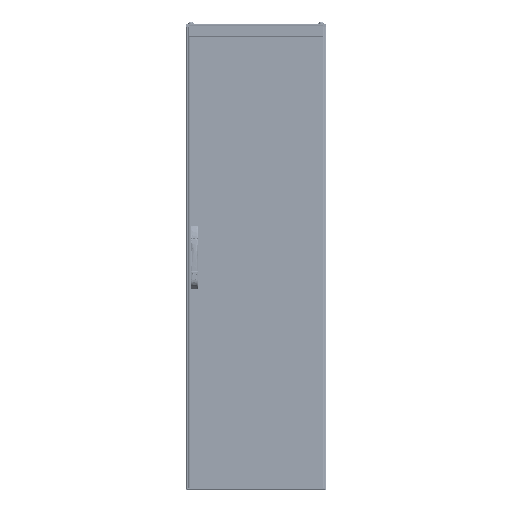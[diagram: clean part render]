
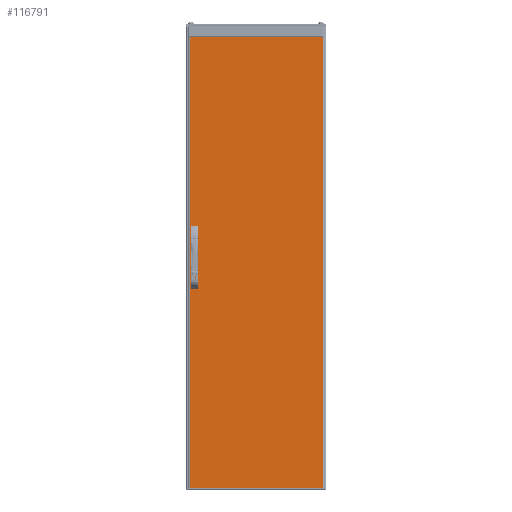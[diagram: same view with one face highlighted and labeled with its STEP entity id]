
A CAD part, top view. The second image highlights one B-rep face of the part: STEP entity #116791.
In plain terms, the highlighted planar face has unit normal (0, 0, 1) as drawn and (0, -1, 0) by its records, which use the part's own axes.
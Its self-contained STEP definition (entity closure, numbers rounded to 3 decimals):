
#176 = DIRECTION ( 'NONE',  ( 0., -1., 0. ) ) ;
#2111 = CARTESIAN_POINT ( 'NONE',  ( 876.498, 0., -16.045 ) ) ;
#7709 = EDGE_CURVE ( 'NONE', #314899, #80821, #69271, .T. ) ;
#9072 = LINE ( 'NONE', #193370, #301735 ) ;
#19962 = DIRECTION ( 'NONE',  ( 0., 1., 0. ) ) ;
#22725 = ORIENTED_EDGE ( 'NONE', *, *, #29682, .T. ) ;
#24233 = ORIENTED_EDGE ( 'NONE', *, *, #187317, .F. ) ;
#26085 = ORIENTED_EDGE ( 'NONE', *, *, #326736, .F. ) ;
#27164 = VERTEX_POINT ( 'NONE', #230411 ) ;
#27208 = FACE_BOUND ( 'NONE', #187637, .T. ) ;
#29682 = EDGE_CURVE ( 'NONE', #260026, #83284, #306616, .T. ) ;
#30206 = DIRECTION ( 'NONE',  ( 0., 0., 1. ) ) ;
#32160 = DIRECTION ( 'NONE',  ( -1., 0., 0. ) ) ;
#36968 = ORIENTED_EDGE ( 'NONE', *, *, #109586, .F. ) ;
#52150 = LINE ( 'NONE', #331497, #170695 ) ;
#54330 = ORIENTED_EDGE ( 'NONE', *, *, #332370, .T. ) ;
#55620 = ORIENTED_EDGE ( 'NONE', *, *, #75041, .T. ) ;
#57652 = DIRECTION ( 'NONE',  ( 0., 1., 0. ) ) ;
#59205 = LINE ( 'NONE', #213204, #266593 ) ;
#65062 = CARTESIAN_POINT ( 'NONE',  ( 876.498, 0., -21.745 ) ) ;
#66842 = EDGE_CURVE ( 'NONE', #83284, #196909, #9072, .T. ) ;
#69271 = CIRCLE ( 'NONE', #279984, 2.85 ) ;
#70539 = VECTOR ( 'NONE', #283867, 1000. ) ;
#71337 = CARTESIAN_POINT ( 'NONE',  ( 958.75, 0., -14.645 ) ) ;
#74515 = EDGE_CURVE ( 'NONE', #196909, #329781, #121294, .T. ) ;
#74584 = VERTEX_POINT ( 'NONE', #209993 ) ;
#74708 = CIRCLE ( 'NONE', #117986, 2.85 ) ;
#74817 = DIRECTION ( 'NONE',  ( 0., 1., 0. ) ) ;
#75041 = EDGE_CURVE ( 'NONE', #127137, #269888, #131647, .T. ) ;
#77344 = EDGE_CURVE ( 'NONE', #269888, #127137, #74708, .T. ) ;
#77941 = FACE_BOUND ( 'NONE', #117811, .T. ) ;
#79615 = CARTESIAN_POINT ( 'NONE',  ( 0., 0., -572. ) ) ;
#80370 = VECTOR ( 'NONE', #301605, 1000. ) ;
#80821 = VERTEX_POINT ( 'NONE', #2111 ) ;
#82655 = CARTESIAN_POINT ( 'NONE',  ( 1106.5, 0., -18.895 ) ) ;
#83284 = VERTEX_POINT ( 'NONE', #330237 ) ;
#83376 = VECTOR ( 'NONE', #167335, 1000. ) ;
#84670 = DIRECTION ( 'NONE',  ( 0., 0., 1. ) ) ;
#89744 = CARTESIAN_POINT ( 'NONE',  ( 0., 0., -572. ) ) ;
#96921 = DIRECTION ( 'NONE',  ( 0., 1., 0. ) ) ;
#103314 = FACE_BOUND ( 'NONE', #201569, .T. ) ;
#104495 = VERTEX_POINT ( 'NONE', #334427 ) ;
#105088 = CARTESIAN_POINT ( 'NONE',  ( 958.75, 0., -14.645 ) ) ;
#106760 = EDGE_CURVE ( 'NONE', #74584, #324449, #224079, .T. ) ;
#109436 = ORIENTED_EDGE ( 'NONE', *, *, #77344, .T. ) ;
#109586 = EDGE_CURVE ( 'NONE', #213952, #235732, #276688, .T. ) ;
#110028 = LINE ( 'NONE', #213265, #267280 ) ;
#113444 = CARTESIAN_POINT ( 'NONE',  ( 958.75, 0., -18.895 ) ) ;
#114523 = EDGE_CURVE ( 'NONE', #27164, #213952, #162338, .T. ) ;
#116791 = ADVANCED_FACE ( 'NONE', ( #103314, #77941, #27208, #159124 ), #157449, .T. ) ;
#117811 = EDGE_LOOP ( 'NONE', ( #55620, #109436 ) ) ;
#117986 = AXIS2_PLACEMENT_3D ( 'NONE', #120648, #74817, #228821 ) ;
#120504 = LINE ( 'NONE', #71337, #80370 ) ;
#120648 = CARTESIAN_POINT ( 'NONE',  ( 1106.5, 0., -18.895 ) ) ;
#121294 = CIRCLE ( 'NONE', #316077, 4.25 ) ;
#121607 = EDGE_CURVE ( 'NONE', #74584, #27164, #131517, .T. ) ;
#124000 = CARTESIAN_POINT ( 'NONE',  ( 1024.25, 0., -18.895 ) ) ;
#127137 = VERTEX_POINT ( 'NONE', #284979 ) ;
#131025 = VECTOR ( 'NONE', #324622, 1000. ) ;
#131517 = LINE ( 'NONE', #290545, #70539 ) ;
#131647 = CIRCLE ( 'NONE', #196353, 2.85 ) ;
#140956 = DIRECTION ( 'NONE',  ( -1., 0., 0. ) ) ;
#141061 = AXIS2_PLACEMENT_3D ( 'NONE', #188001, #289628, #240456 ) ;
#155876 = EDGE_LOOP ( 'NONE', ( #26085, #24233, #176635, #311325, #36968, #219548, #214833, #228236 ) ) ;
#157449 = PLANE ( 'NONE',  #306755 ) ;
#159124 = FACE_OUTER_BOUND ( 'NONE', #155876, .T. ) ;
#160597 = AXIS2_PLACEMENT_3D ( 'NONE', #124000, #96921, #169727 ) ;
#162338 = LINE ( 'NONE', #186035, #83376 ) ;
#167335 = DIRECTION ( 'NONE',  ( 1., 0., 0. ) ) ;
#169727 = DIRECTION ( 'NONE',  ( 0., 0., 1. ) ) ;
#170695 = VECTOR ( 'NONE', #180728, 1000. ) ;
#173560 = ORIENTED_EDGE ( 'NONE', *, *, #74515, .T. ) ;
#176635 = ORIENTED_EDGE ( 'NONE', *, *, #245582, .F. ) ;
#180728 = DIRECTION ( 'NONE',  ( 0., 0., 1. ) ) ;
#181145 = DIRECTION ( 'NONE',  ( 0., 0., -1. ) ) ;
#184800 = ORIENTED_EDGE ( 'NONE', *, *, #273555, .T. ) ;
#186035 = CARTESIAN_POINT ( 'NONE',  ( 0., 0., 0. ) ) ;
#186414 = CARTESIAN_POINT ( 'NONE',  ( 1106.5, 0., -21.745 ) ) ;
#187317 = EDGE_CURVE ( 'NONE', #285823, #283376, #59205, .T. ) ;
#187637 = EDGE_LOOP ( 'NONE', ( #184800, #252599 ) ) ;
#188001 = CARTESIAN_POINT ( 'NONE',  ( 876.498, 0., -18.895 ) ) ;
#193370 = CARTESIAN_POINT ( 'NONE',  ( 958.75, 0., -23.145 ) ) ;
#196353 = AXIS2_PLACEMENT_3D ( 'NONE', #82655, #317941, #30206 ) ;
#196909 = VERTEX_POINT ( 'NONE', #323488 ) ;
#198797 = CARTESIAN_POINT ( 'NONE',  ( 1983., 0., 0. ) ) ;
#200924 = DIRECTION ( 'NONE',  ( 0., 0., 1. ) ) ;
#201569 = EDGE_LOOP ( 'NONE', ( #173560, #54330, #22725, #324838 ) ) ;
#209993 = CARTESIAN_POINT ( 'NONE',  ( 0., 0., -0.1 ) ) ;
#210506 = CARTESIAN_POINT ( 'NONE',  ( 1983., 0., -572. ) ) ;
#211315 = CIRCLE ( 'NONE', #141061, 2.85 ) ;
#213204 = CARTESIAN_POINT ( 'NONE',  ( 0., 0., -572. ) ) ;
#213265 = CARTESIAN_POINT ( 'NONE',  ( 0., 0., 0. ) ) ;
#213952 = VERTEX_POINT ( 'NONE', #256780 ) ;
#214833 = ORIENTED_EDGE ( 'NONE', *, *, #121607, .F. ) ;
#216305 = LINE ( 'NONE', #321324, #131025 ) ;
#219548 = ORIENTED_EDGE ( 'NONE', *, *, #114523, .F. ) ;
#224079 = LINE ( 'NONE', #302025, #313035 ) ;
#224775 = CARTESIAN_POINT ( 'NONE',  ( 0., 0., -571.9 ) ) ;
#228236 = ORIENTED_EDGE ( 'NONE', *, *, #106760, .T. ) ;
#228821 = DIRECTION ( 'NONE',  ( 0., 0., 1. ) ) ;
#230411 = CARTESIAN_POINT ( 'NONE',  ( 0., 0., 0. ) ) ;
#235732 = VERTEX_POINT ( 'NONE', #302632 ) ;
#238684 = DIRECTION ( 'NONE',  ( 0., 0., 1. ) ) ;
#240456 = DIRECTION ( 'NONE',  ( 0., 0., 1. ) ) ;
#244494 = DIRECTION ( 'NONE',  ( 0., 0., -1. ) ) ;
#245582 = EDGE_CURVE ( 'NONE', #104495, #285823, #216305, .T. ) ;
#248524 = EDGE_CURVE ( 'NONE', #104495, #235732, #52150, .T. ) ;
#249370 = VECTOR ( 'NONE', #302143, 1000. ) ;
#252599 = ORIENTED_EDGE ( 'NONE', *, *, #7709, .T. ) ;
#256780 = CARTESIAN_POINT ( 'NONE',  ( 1983., 0., 0. ) ) ;
#260026 = VERTEX_POINT ( 'NONE', #297599 ) ;
#266593 = VECTOR ( 'NONE', #32160, 1000. ) ;
#267280 = VECTOR ( 'NONE', #84670, 1000. ) ;
#269888 = VERTEX_POINT ( 'NONE', #186414 ) ;
#273555 = EDGE_CURVE ( 'NONE', #80821, #314899, #211315, .T. ) ;
#273800 = CARTESIAN_POINT ( 'NONE',  ( 876.498, 0., -18.895 ) ) ;
#276688 = LINE ( 'NONE', #198797, #249370 ) ;
#279984 = AXIS2_PLACEMENT_3D ( 'NONE', #273800, #19962, #200924 ) ;
#283376 = VERTEX_POINT ( 'NONE', #89744 ) ;
#283867 = DIRECTION ( 'NONE',  ( 0., 0., 1. ) ) ;
#284979 = CARTESIAN_POINT ( 'NONE',  ( 1106.5, 0., -16.045 ) ) ;
#285823 = VERTEX_POINT ( 'NONE', #210506 ) ;
#289628 = DIRECTION ( 'NONE',  ( 0., 1., 0. ) ) ;
#290545 = CARTESIAN_POINT ( 'NONE',  ( 0., 0., 0. ) ) ;
#297599 = CARTESIAN_POINT ( 'NONE',  ( 1024.25, 0., -14.645 ) ) ;
#301605 = DIRECTION ( 'NONE',  ( 1., 0., 0. ) ) ;
#301735 = VECTOR ( 'NONE', #140956, 1000. ) ;
#302025 = CARTESIAN_POINT ( 'NONE',  ( 0., 0., -0.1 ) ) ;
#302143 = DIRECTION ( 'NONE',  ( 0., 0., -1. ) ) ;
#302632 = CARTESIAN_POINT ( 'NONE',  ( 1983., 0., -0.1 ) ) ;
#306616 = CIRCLE ( 'NONE', #160597, 4.25 ) ;
#306755 = AXIS2_PLACEMENT_3D ( 'NONE', #79615, #176, #181145 ) ;
#311325 = ORIENTED_EDGE ( 'NONE', *, *, #248524, .T. ) ;
#313035 = VECTOR ( 'NONE', #244494, 1000. ) ;
#314899 = VERTEX_POINT ( 'NONE', #65062 ) ;
#316077 = AXIS2_PLACEMENT_3D ( 'NONE', #113444, #57652, #238684 ) ;
#317941 = DIRECTION ( 'NONE',  ( 0., 1., 0. ) ) ;
#321324 = CARTESIAN_POINT ( 'NONE',  ( 1983., 0., 0. ) ) ;
#323488 = CARTESIAN_POINT ( 'NONE',  ( 958.75, 0., -23.145 ) ) ;
#324449 = VERTEX_POINT ( 'NONE', #224775 ) ;
#324622 = DIRECTION ( 'NONE',  ( 0., 0., -1. ) ) ;
#324838 = ORIENTED_EDGE ( 'NONE', *, *, #66842, .T. ) ;
#326736 = EDGE_CURVE ( 'NONE', #283376, #324449, #110028, .T. ) ;
#329781 = VERTEX_POINT ( 'NONE', #105088 ) ;
#330237 = CARTESIAN_POINT ( 'NONE',  ( 1024.25, 0., -23.145 ) ) ;
#331497 = CARTESIAN_POINT ( 'NONE',  ( 1983., 0., -571.9 ) ) ;
#332370 = EDGE_CURVE ( 'NONE', #329781, #260026, #120504, .T. ) ;
#334427 = CARTESIAN_POINT ( 'NONE',  ( 1983., 0., -571.9 ) ) ;
